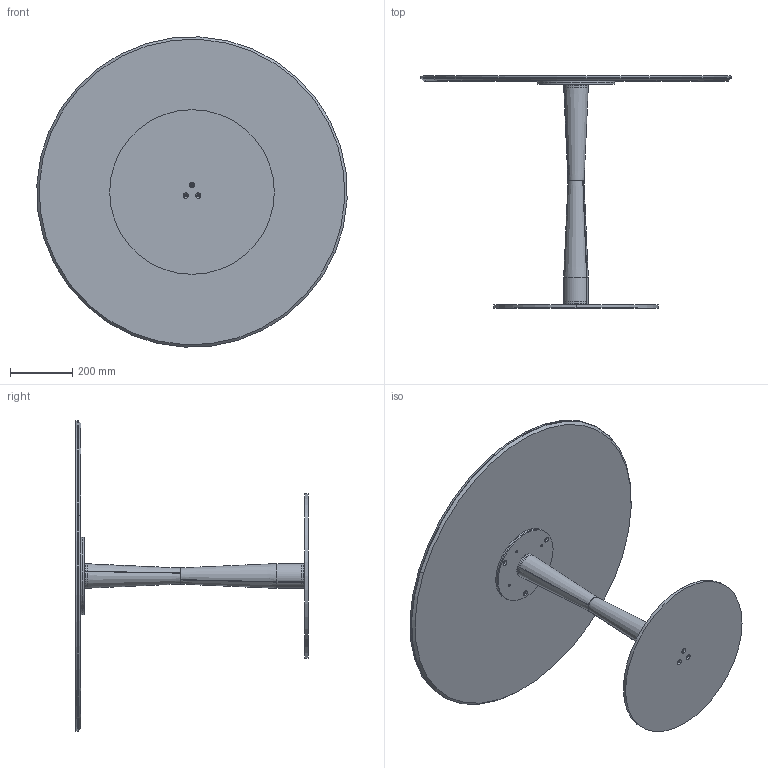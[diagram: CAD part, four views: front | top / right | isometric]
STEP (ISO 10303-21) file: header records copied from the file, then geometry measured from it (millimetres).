
FILE_DESCRIPTION (( 'STEP AP203' ), '1' );
FILE_NAME ('FI30C.STEP', '2024-08-08T07:58:55', ( '' ), ( '' ), 'SwSTEP 2.0', 'SolidWorks 2022', '' );
FILE_SCHEMA (( 'CONFIG_CONTROL_DESIGN' ));
Length unit declared in the file: millimetre
Products named in the file (12): P0000003-00-STAFFA DI FISSAGGIO DIAMETRO 250_P0000003-250mm normale; CBS000000BAS-00-BISTRO PIASTRA INFERIORE_D.530; FIL000000_03-00-Piastra per Tubi conificati FILU; FIL000000_02-00-Tubo Conificato inferiore_tagliato; CBS200000PST-00-CONTROPIASTRA PER PIASTRA D.25cm GREZZO_250; KXXCXX-00-Piani Rotondi in ceramica CON PIASTRA_K03P PIANO CERAMICA D.100cm; P0000005-00-FILETTO M24 CON FORO H.20mm; FIL000000COL-01-FILU'' COLONNA CENTRALE; M8xXXmm_M8X35mm; FIL000000_01-00-Tubo Conificato superiore_tagliato; FI30C; K1XCMXX-00-Piani Rotondi in ceramica_D.1000
Assembly tree (12 placements, depth 3):
  FI30C
    CBS000000BAS-00-BISTRO PIASTRA INFERIORE_D.530
    CBS200000PST-00-CONTROPIASTRA PER PIASTRA D.25cm GREZZO_250
    FIL000000COL-01-FILU'' COLONNA CENTRALE
      FIL000000_02-00-Tubo Conificato inferiore_tagliato
      FIL000000_01-00-Tubo Conificato superiore_tagliato
      FIL000000_03-00-Piastra per Tubi conificati FILU  x2
    KXXCXX-00-Piani Rotondi in ceramica CON PIASTRA_K03P PIANO CERAMICA D.100cm
      K1XCMXX-00-Piani Rotondi in ceramica_D.1000
      P0000003-00-STAFFA DI FISSAGGIO DIAMETRO 250_P0000003-250mm normale
      M8xXXmm_M8X35mm
      P0000005-00-FILETTO M24 CON FORO H.20mm
Bounding box: 998.7 x 747 x 998.7 mm (x, y, z)
Volume: 15549292.4 mm3; surface area: 4160776.1 mm2
Topology: 11 solids, 11 shells, 181 faces, 424 edges, 264 vertices
Faces by surface type: cylinder 91, cone 49, plane 34, torus 4, bspline 3
Entity records: 8544 total; most frequent: CARTESIAN_POINT 3254, DIRECTION 895, ORIENTED_EDGE 796, EDGE_CURVE 398, AXIS2_PLACEMENT_3D 379, VERTEX_POINT 248, EDGE_LOOP 220, CIRCLE 194
